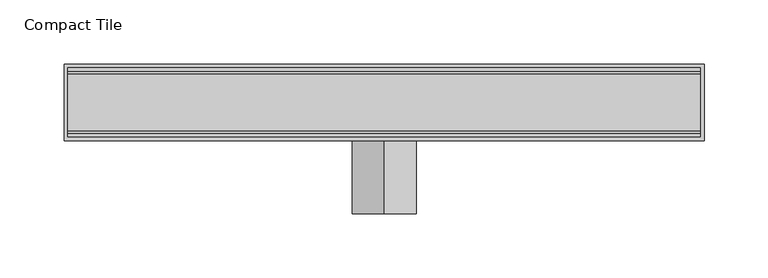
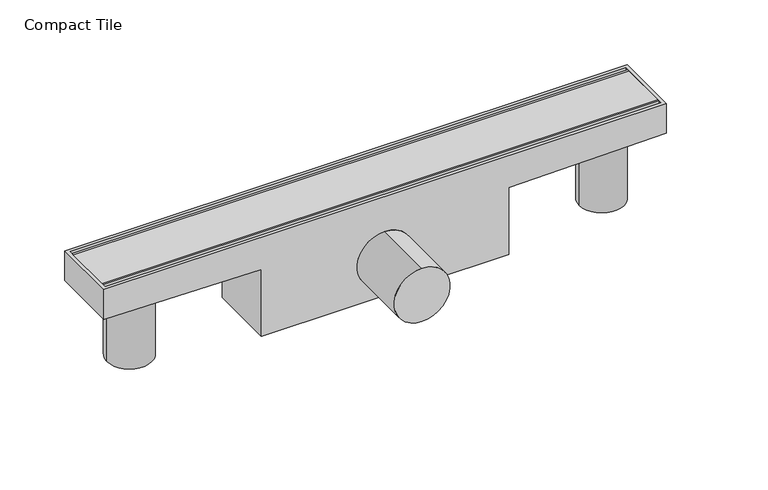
"""IFC4 building model written with IfcOpenShell, lengths in millimetres: sanitary terminal geometry, NLRS_PF_52_UN_Compact Tile_Easydrain : Compact Tile."""

from ifc_helpers import new_model, si_unit, point, frame, frame_2d, origin, place, context, project, spatial, polyline, circle_curve, trimmed, segment, composite_curve, outline, extrude, source, transform, mapped, element, save
from ifc_brep_helpers import plane_surface, cylinder_surface, advanced_brep


def compact_tile_2c210a84(model_context):
    return source(origin(), model_context, "Body", "SolidModel", [
        extrude(outline(polyline([(247.0, 22.0), (247.0, -22.0), (-247.0, -22.0), (-247.0, 22.0), (247.0, 22.0)])), frame((0.0, 0.0, -12.0), z_axis=(0.0, 0.0, 1.0), x_axis=(1.0, 0.0, 0.0)), (0.0, 0.0, 1.0), 12.0),
        extrude(outline(polyline([(247.0, 24.0), (247.0, 22.0), (-247.0, 22.0), (-247.0, 24.0), (247.0, 24.0)])), frame((0.0, 0.0, -12.0), z_axis=(0.0, 0.0, 1.0), x_axis=(1.0, 0.0, 0.0)), (0.0, 0.0, 1.0), 12.0),
        extrude(outline(polyline([(247.0, -24.0), (-247.0, -24.0), (-247.0, -22.0), (247.0, -22.0), (247.0, -24.0)])), frame((0.0, 0.0, -12.0), z_axis=(0.0, 0.0, 1.0), x_axis=(1.0, 0.0, 0.0)), (0.0, 0.0, 1.0), 12.0),
        extrude(outline(composite_curve([segment(trimmed(circle_curve(frame_2d((-210.0, 0.0)), 20.0), [point((-230.0, 0.0))], [point((-190.0, 0.0))], False, "CARTESIAN"), True, "CONTINUOUS"), segment(trimmed(circle_curve(frame_2d((-210.0, 0.0)), 20.0), [point((-190.0, 0.0))], [point((-230.0, 0.0))], False, "CARTESIAN"), True, "CONTINUOUS")], self_intersect=False)), frame((0.0, 0.0, -93.0), z_axis=(0.0, 0.0, 1.0), x_axis=(1.0, 0.0, 0.0)), (0.0, 0.0, 1.0), 75.0),
        extrude(outline(composite_curve([segment(trimmed(circle_curve(frame_2d((210.0, 0.0)), 20.0), [point((190.0, 0.0))], [point((230.0, 0.0))], False, "CARTESIAN"), True, "CONTINUOUS"), segment(trimmed(circle_curve(frame_2d((210.0, 0.0)), 20.0), [point((230.0, 0.0))], [point((190.0, 0.0))], False, "CARTESIAN"), True, "CONTINUOUS")], self_intersect=False)), frame((0.0, 0.0, -93.0), z_axis=(0.0, 0.0, 1.0), x_axis=(1.0, 0.0, 0.0)), (0.0, 0.0, 1.0), 75.0),
        advanced_brep(
        [(-250.0, -30.0, -28.0), (-110.0, -30.0, -30.0), (-110.0, -30.0, -93.0), (110.0, -30.0, -93.0), (110.0, -30.0, -30.0), (250.0, -30.0, -28.0), (250.0, -30.0, 0.0), (-250.0, -30.0, 0.0), (0.0, -30.0, -33.0), (0.0, -30.0, -83.0), (-250.0, 30.0, -28.0), (-250.0, 30.0, 0.0), (250.0, 30.0, 0.0), (250.0, 30.0, -28.0), (110.0, 30.0, -30.0), (110.0, 30.0, -93.0), (-110.0, 30.0, -93.0), (-110.0, 30.0, -30.0), (-247.0, 27.0, 0.0), (247.0, 27.0, 0.0), (247.0, -27.0, 0.0), (-247.0, -27.0, 0.0), (0.0, -86.9792871, -33.0), (0.0, -86.9792871, -83.0), (247.0, 27.0, -12.0), (-247.0, 27.0, -12.0), (-247.0, -27.0, -12.0), (247.0, -27.0, -12.0)],
        [
            (0, 1),
            (1, 2),
            (2, 3),
            (3, 4),
            (4, 5),
            (5, 6),
            (6, 7),
            (7, 0),
            (8, 9, circle_curve(frame((0.0, -30.0, -58.0), z_axis=(0.0, 1.0, 0.0), x_axis=(0.0, 0.0, -1.0)), 25.0)),
            (9, 8, circle_curve(frame((0.0, -30.0, -58.0), z_axis=(0.0, 1.0, 0.0), x_axis=(0.0, 0.0, -1.0)), 25.0)),
            (10, 11),
            (11, 12),
            (12, 13),
            (13, 14),
            (14, 15),
            (15, 16),
            (16, 17),
            (17, 10),
            (0, 10),
            (17, 1),
            (5, 13),
            (12, 6),
            (11, 7),
            (18, 19),
            (19, 20),
            (20, 21),
            (21, 18),
            (16, 2),
            (15, 3),
            (14, 4),
            (22, 23, circle_curve(frame((0.0, -86.9792871, -58.0), z_axis=(0.0, -1.0, 0.0), x_axis=(0.0, 0.0, -1.0)), 25.0)),
            (23, 22, circle_curve(frame((0.0, -86.9792871, -58.0), z_axis=(0.0, -1.0, 0.0), x_axis=(0.0, 0.0, -1.0)), 25.0)),
            (23, 9),
            (8, 22),
            (24, 25),
            (25, 26),
            (26, 27),
            (27, 24),
            (24, 19),
            (18, 25),
            (21, 26),
            (20, 27),
        ],
        [
            plane_surface(frame((-250.0, -30.0, -28.0), z_axis=(0.0, -1.0, 0.0), x_axis=(0.99989797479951, 0.0, -0.014284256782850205))),
            plane_surface(frame((-250.0, 30.0, -28.0), z_axis=(0.0, 1.0, 0.0), x_axis=(-0.99989797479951, 0.0, 0.014284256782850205))),
            plane_surface(frame((-250.0, -30.0, -28.0), z_axis=(-0.014284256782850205, 0.0, -0.99989797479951), x_axis=(0.0, 1.0, 0.0))),
            plane_surface(frame((250.0, -30.0, -28.0), z_axis=(1.0, 0.0, 0.0), x_axis=(0.0, 1.0, 0.0))),
            plane_surface(frame((250.0, -30.0, 0.0), z_axis=(0.0, 0.0, 1.0), x_axis=(0.0, 1.0, 0.0))),
            plane_surface(frame((-250.0, -30.0, 0.0), z_axis=(-1.0, 0.0, 0.0), x_axis=(0.0, 1.0, 0.0))),
            plane_surface(frame((-110.0, -30.0, -30.0), z_axis=(-1.0, 0.0, 0.0), x_axis=(0.0, 1.0, 0.0))),
            plane_surface(frame((-110.0, -30.0, -93.0), z_axis=(0.0, 0.0, -1.0), x_axis=(0.0, 1.0, 0.0))),
            plane_surface(frame((110.0, -30.0, -93.0), z_axis=(1.0, 0.0, 0.0), x_axis=(0.0, 1.0, 0.0))),
            plane_surface(frame((110.0, -30.0, -30.0), z_axis=(0.014284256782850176, 0.0, -0.99989797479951), x_axis=(0.0, 1.0, 0.0))),
            plane_surface(frame((0.0, -86.9792871, -58.0), z_axis=(0.0, -1.0, 0.0), x_axis=(1.0, 0.0, 0.0))),
            cylinder_surface(frame((0.0, 0.0, -58.0), z_axis=(0.0, 1.0, 0.0), x_axis=(0.0, 0.0, -1.0)), 25.0),
            plane_surface(frame((-247.0, 27.0, -12.0), z_axis=(0.0, 0.0, 1.0), x_axis=(1.0, 0.0, 0.0))),
            plane_surface(frame((247.0, 27.0, 10.0), z_axis=(0.0, -1.0, 0.0), x_axis=(0.0, 0.0, -1.0))),
            plane_surface(frame((-247.0, 27.0, 10.0), z_axis=(1.0, 0.0, 0.0), x_axis=(0.0, 0.0, -1.0))),
            plane_surface(frame((-247.0, -27.0, 10.0), z_axis=(0.0, 1.0, 0.0), x_axis=(0.0, 0.0, -1.0))),
            plane_surface(frame((247.0, -27.0, 10.0), z_axis=(-1.0, 0.0, 0.0), x_axis=(0.0, 0.0, -1.0))),
        ],
        [
            (0, [[1, 2, 3, 4, 5, 6, 7, 8], [9, 10]]),
            (1, [[11, 12, 13, 14, 15, 16, 17, 18]]),
            (2, [[-1, 19, -18, 20]]),
            (3, [[-6, 21, -13, 22]]),
            (4, [[-7, -22, -12, 23], [24, 25, 26, 27]]),
            (5, [[-8, -23, -11, -19]]),
            (6, [[-2, -20, -17, 28]]),
            (7, [[-3, -28, -16, 29]]),
            (8, [[-4, -29, -15, 30]]),
            (9, [[-5, -30, -14, -21]]),
            (10, [[31, 32]]),
            (11, [[-32, 33, -9, 34]]),
            (11, [[-31, -34, -10, -33]]),
            (12, [[35, 36, 37, 38]]),
            (13, [[-35, 39, -24, 40]]),
            (14, [[-36, -40, -27, 41]]),
            (15, [[-37, -41, -26, 42]]),
            (16, [[-38, -42, -25, -39]]),
        ],
    ),
    ])


if __name__ == "__main__":
    model = new_model("IFC4")
    model_context = context("Model", 3, world=origin())
    ifc_project = project(units=[si_unit("LENGTHUNIT", "METRE", prefix="MILLI")], contexts=[model_context])
    site = spatial("IfcSite", under=ifc_project)
    building = spatial("IfcBuilding", under=site)
    placement = place(None, origin())
    compact_tile_shape = compact_tile_2c210a84(model_context)
    element("IfcSanitaryTerminal", 1, ObjectType="NLRS_PF_52_UN_Compact Tile_Easydrain : Compact Tile", at=placement, inside=building, context=model_context, shape_type="MappedRepresentation", body=[
        mapped(compact_tile_shape, transform((0.0, 0.0, 0.0), x_axis=(1.0, 0.0, 0.0), y_axis=(0.0, 1.0, 0.0), z_axis=(0.0, 0.0, 1.0))),
    ])
    save(model, "model.ifc")
